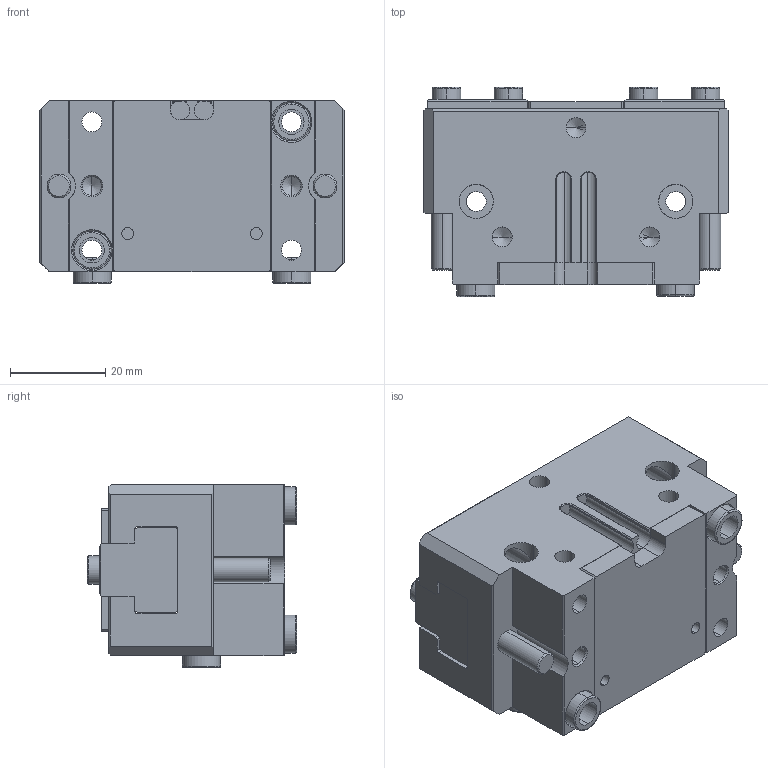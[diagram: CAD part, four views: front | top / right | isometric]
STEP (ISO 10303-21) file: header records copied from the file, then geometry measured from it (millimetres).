
FILE_DESCRIPTION (( 'STEP AP203' ), '1' );
FILE_NAME ('OPP-64-C1-原始檔-組合-W106.04.19.STEP', '2017-04-19T08:49:50', ( 'DanyaoCAD' ), ( '' ), 'SwSTEP 2.0', 'SolidWorks 2016', '' );
FILE_SCHEMA (( 'CONFIG_CONTROL_DESIGN' ));
Length unit declared in the file: millimetre
Products named in the file (7): Griffa; Fondello; Boccola __2; Coperchio; Corpo; OPP-64-C1-原始檔-組合-W106.04.19; Boccola _
Assembly tree (13 placements, depth 2):
  OPP-64-C1-原始檔-組合-W106.04.19
    Boccola _  x4
    Griffa  x2
    Fondello
    Boccola __2  x4
    Coperchio
    Corpo
Bounding box: 64 x 44 x 38.5 mm (x, y, z)
Volume: 70446.3 mm3; surface area: 30171.1 mm2
Topology: 13 solids, 13 shells, 1206 faces, 3294 edges, 2144 vertices
Faces by surface type: bspline 672, plane 314, cylinder 148, cone 72
Entity records: 52585 total; most frequent: CARTESIAN_POINT 27858, ORIENTED_EDGE 6088, EDGE_CURVE 3044, DIRECTION 2894, VERTEX_POINT 2006, LINE 1430, VECTOR 1430, B_SPLINE_CURVE_WITH_KNOTS 1326
